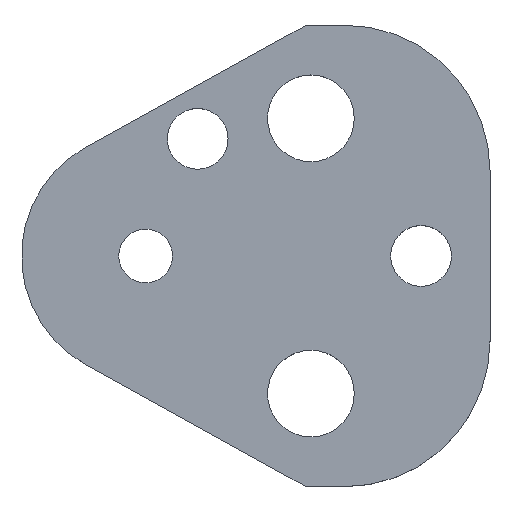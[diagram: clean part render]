
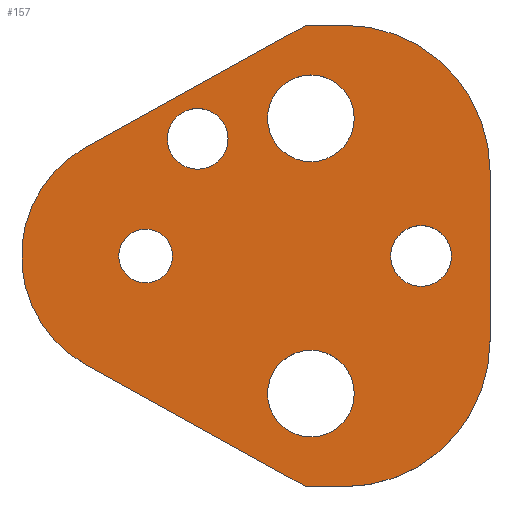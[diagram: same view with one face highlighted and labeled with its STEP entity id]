
A CAD part, top view. The second image highlights one B-rep face of the part: STEP entity #157.
In plain terms, the highlighted planar face has unit normal (0, 0, 1).
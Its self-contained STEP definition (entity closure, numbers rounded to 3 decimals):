
#103=FACE_BOUND('',#207,.T.);
#104=FACE_BOUND('',#208,.T.);
#105=FACE_BOUND('',#209,.T.);
#106=FACE_BOUND('',#210,.T.);
#107=FACE_BOUND('',#211,.T.);
#108=FACE_BOUND('',#212,.T.);
#122=CIRCLE('',#480,16.8);
#124=CIRCLE('',#484,16.8);
#127=CIRCLE('',#490,14.3);
#138=CIRCLE('',#503,5.);
#139=CIRCLE('',#504,5.);
#140=CIRCLE('',#505,3.5);
#141=CIRCLE('',#506,3.5);
#142=CIRCLE('',#507,5.);
#143=CIRCLE('',#508,5.);
#144=CIRCLE('',#509,3.5);
#145=CIRCLE('',#510,3.5);
#146=CIRCLE('',#511,3.1);
#147=CIRCLE('',#512,3.1);
#157=ADVANCED_FACE('',(#103,#104,#105,#106,#107,#108),#174,.T.);
#174=PLANE('',#513);
#207=EDGE_LOOP('',(#273,#274,#275,#276,#277,#278,#279,#280));
#208=EDGE_LOOP('',(#281,#282));
#209=EDGE_LOOP('',(#283,#284));
#210=EDGE_LOOP('',(#285,#286));
#211=EDGE_LOOP('',(#287,#288));
#212=EDGE_LOOP('',(#289,#290));
#273=ORIENTED_EDGE('',*,*,#368,.T.);
#274=ORIENTED_EDGE('',*,*,#372,.T.);
#275=ORIENTED_EDGE('',*,*,#375,.T.);
#276=ORIENTED_EDGE('',*,*,#378,.T.);
#277=ORIENTED_EDGE('',*,*,#381,.T.);
#278=ORIENTED_EDGE('',*,*,#384,.T.);
#279=ORIENTED_EDGE('',*,*,#387,.T.);
#280=ORIENTED_EDGE('',*,*,#390,.T.);
#281=ORIENTED_EDGE('',*,*,#401,.T.);
#282=ORIENTED_EDGE('',*,*,#402,.T.);
#283=ORIENTED_EDGE('',*,*,#403,.T.);
#284=ORIENTED_EDGE('',*,*,#404,.T.);
#285=ORIENTED_EDGE('',*,*,#405,.T.);
#286=ORIENTED_EDGE('',*,*,#406,.T.);
#287=ORIENTED_EDGE('',*,*,#407,.T.);
#288=ORIENTED_EDGE('',*,*,#408,.T.);
#289=ORIENTED_EDGE('',*,*,#409,.T.);
#290=ORIENTED_EDGE('',*,*,#410,.T.);
#332=VERTEX_POINT('',#649);
#333=VERTEX_POINT('',#651);
#336=VERTEX_POINT('',#658);
#338=VERTEX_POINT('',#664);
#340=VERTEX_POINT('',#670);
#342=VERTEX_POINT('',#676);
#344=VERTEX_POINT('',#682);
#346=VERTEX_POINT('',#688);
#357=VERTEX_POINT('',#717);
#358=VERTEX_POINT('',#718);
#359=VERTEX_POINT('',#721);
#360=VERTEX_POINT('',#722);
#361=VERTEX_POINT('',#725);
#362=VERTEX_POINT('',#726);
#363=VERTEX_POINT('',#729);
#364=VERTEX_POINT('',#730);
#365=VERTEX_POINT('',#733);
#366=VERTEX_POINT('',#734);
#368=EDGE_CURVE('',#333,#332,#422,.T.);
#372=EDGE_CURVE('',#332,#336,#426,.T.);
#375=EDGE_CURVE('',#336,#338,#122,.T.);
#378=EDGE_CURVE('',#338,#340,#430,.T.);
#381=EDGE_CURVE('',#340,#342,#124,.T.);
#384=EDGE_CURVE('',#342,#344,#434,.T.);
#387=EDGE_CURVE('',#344,#346,#437,.T.);
#390=EDGE_CURVE('',#346,#333,#127,.T.);
#401=EDGE_CURVE('',#357,#358,#138,.T.);
#402=EDGE_CURVE('',#358,#357,#139,.T.);
#403=EDGE_CURVE('',#359,#360,#140,.T.);
#404=EDGE_CURVE('',#360,#359,#141,.T.);
#405=EDGE_CURVE('',#361,#362,#142,.T.);
#406=EDGE_CURVE('',#362,#361,#143,.T.);
#407=EDGE_CURVE('',#363,#364,#144,.T.);
#408=EDGE_CURVE('',#364,#363,#145,.T.);
#409=EDGE_CURVE('',#365,#366,#146,.T.);
#410=EDGE_CURVE('',#366,#365,#147,.T.);
#422=LINE('',#650,#450);
#426=LINE('',#659,#454);
#430=LINE('',#671,#458);
#434=LINE('',#683,#462);
#437=LINE('',#689,#465);
#450=VECTOR('',#527,1.);
#454=VECTOR('',#533,1.);
#458=VECTOR('',#545,1.);
#462=VECTOR('',#557,1.);
#465=VECTOR('',#562,1.);
#480=AXIS2_PLACEMENT_3D('',#665,#538,#539);
#484=AXIS2_PLACEMENT_3D('',#677,#550,#551);
#490=AXIS2_PLACEMENT_3D('',#693,#568,#569);
#503=AXIS2_PLACEMENT_3D('',#716,#594,#595);
#504=AXIS2_PLACEMENT_3D('',#719,#596,#597);
#505=AXIS2_PLACEMENT_3D('',#720,#598,#599);
#506=AXIS2_PLACEMENT_3D('',#723,#600,#601);
#507=AXIS2_PLACEMENT_3D('',#724,#602,#603);
#508=AXIS2_PLACEMENT_3D('',#727,#604,#605);
#509=AXIS2_PLACEMENT_3D('',#728,#606,#607);
#510=AXIS2_PLACEMENT_3D('',#731,#608,#609);
#511=AXIS2_PLACEMENT_3D('',#732,#610,#611);
#512=AXIS2_PLACEMENT_3D('',#735,#612,#613);
#513=AXIS2_PLACEMENT_3D('',#736,#614,#615);
#527=DIRECTION('',(0.875,-0.485,0.));
#533=DIRECTION('',(1.,0.,0.));
#538=DIRECTION('',(0.,0.,1.));
#539=DIRECTION('',(-0.707,0.707,0.));
#545=DIRECTION('',(0.,1.,0.));
#550=DIRECTION('',(0.,0.,1.));
#551=DIRECTION('',(-0.707,-0.707,0.));
#557=DIRECTION('',(-1.,0.,0.));
#562=DIRECTION('',(-0.875,-0.485,0.));
#568=DIRECTION('',(0.,0.,1.));
#569=DIRECTION('',(1.,0.,0.));
#594=DIRECTION('',(0.,0.,-1.));
#595=DIRECTION('',(-1.,0.,0.));
#596=DIRECTION('',(0.,0.,-1.));
#597=DIRECTION('',(1.,0.,0.));
#598=DIRECTION('',(0.,0.,-1.));
#599=DIRECTION('',(-1.,0.,0.));
#600=DIRECTION('',(0.,0.,-1.));
#601=DIRECTION('',(1.,0.,0.));
#602=DIRECTION('',(0.,0.,-1.));
#603=DIRECTION('',(-1.,0.,0.));
#604=DIRECTION('',(0.,0.,-1.));
#605=DIRECTION('',(1.,0.,0.));
#606=DIRECTION('',(0.,0.,-1.));
#607=DIRECTION('',(-1.,0.,0.));
#608=DIRECTION('',(0.,0.,-1.));
#609=DIRECTION('',(1.,0.,0.));
#610=DIRECTION('',(0.,0.,-1.));
#611=DIRECTION('',(-1.,0.,0.));
#612=DIRECTION('',(0.,0.,-1.));
#613=DIRECTION('',(1.,0.,0.));
#614=DIRECTION('',(0.,0.,1.));
#615=DIRECTION('',(-0.875,0.485,0.));
#649=CARTESIAN_POINT('',(18.492,-26.6,5.));
#650=CARTESIAN_POINT('',(18.492,-26.6,5.));
#651=CARTESIAN_POINT('',(-6.933,-12.507,5.));
#658=CARTESIAN_POINT('',(22.9,-26.6,5.));
#659=CARTESIAN_POINT('',(18.492,-26.6,5.));
#664=CARTESIAN_POINT('',(39.7,-9.8,5.));
#665=CARTESIAN_POINT('',(22.9,-9.8,5.));
#670=CARTESIAN_POINT('',(39.7,9.8,5.));
#671=CARTESIAN_POINT('',(39.7,9.8,5.));
#676=CARTESIAN_POINT('',(22.9,26.6,5.));
#677=CARTESIAN_POINT('',(22.9,9.8,5.));
#682=CARTESIAN_POINT('',(18.492,26.6,5.));
#683=CARTESIAN_POINT('',(18.492,26.6,5.));
#688=CARTESIAN_POINT('',(-6.933,12.507,5.));
#689=CARTESIAN_POINT('',(18.492,26.6,5.));
#693=CARTESIAN_POINT('',(0.,0.,5.));
#716=CARTESIAN_POINT('',(19.05,-15.87,5.));
#717=CARTESIAN_POINT('',(19.05,-10.87,5.));
#718=CARTESIAN_POINT('',(19.05,-20.87,5.));
#719=CARTESIAN_POINT('',(19.05,-15.87,5.));
#720=CARTESIAN_POINT('',(31.75,0.,5.));
#721=CARTESIAN_POINT('',(31.75,3.5,5.));
#722=CARTESIAN_POINT('',(31.75,-3.5,5.));
#723=CARTESIAN_POINT('',(31.75,0.,5.));
#724=CARTESIAN_POINT('',(19.05,15.87,5.));
#725=CARTESIAN_POINT('',(19.05,20.87,5.));
#726=CARTESIAN_POINT('',(19.05,10.87,5.));
#727=CARTESIAN_POINT('',(19.05,15.87,5.));
#728=CARTESIAN_POINT('',(6.,13.5,5.));
#729=CARTESIAN_POINT('',(6.,17.,5.));
#730=CARTESIAN_POINT('',(6.,10.,5.));
#731=CARTESIAN_POINT('',(6.,13.5,5.));
#732=CARTESIAN_POINT('',(0.,0.,5.));
#733=CARTESIAN_POINT('',(0.,3.1,5.));
#734=CARTESIAN_POINT('',(0.,-3.1,5.));
#735=CARTESIAN_POINT('',(0.,0.,5.));
#736=CARTESIAN_POINT('',(-6.933,-12.507,5.));
